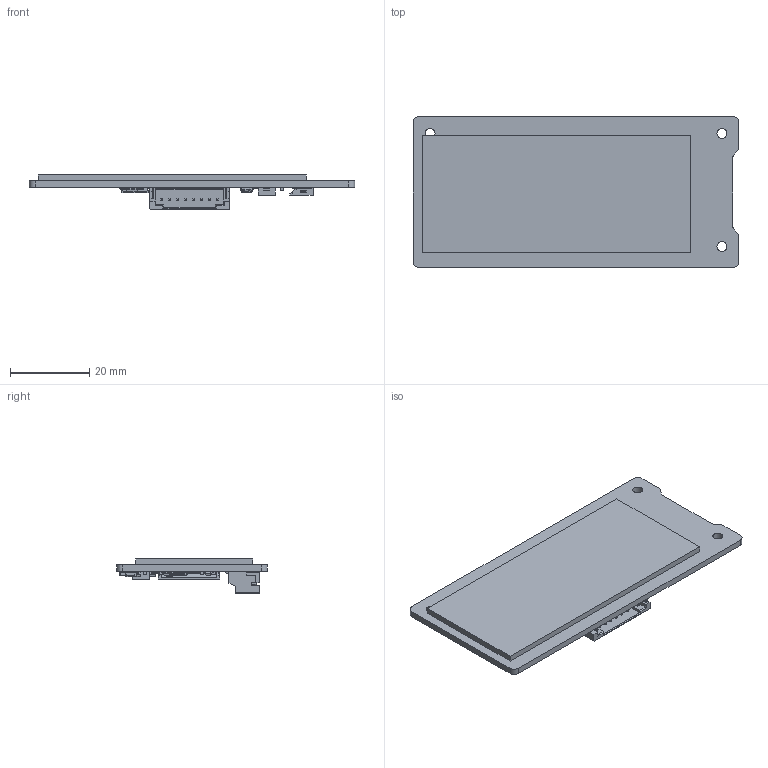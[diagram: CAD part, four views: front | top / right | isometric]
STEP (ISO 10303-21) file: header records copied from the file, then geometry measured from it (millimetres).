
FILE_DESCRIPTION(/* description */ (''),/* implementation_level */ '2;1');
FILE_NAME(/* name */ '2.9inch E-Paper Display RBYW V1.0_step.prt.stp',/* time_stamp */ '2025-08-19T10:01:01+08:00',/* author */ (''),/* organization */ (''),/* preprocessor_version */ 'ST-DEVELOPER v16.7',/* originating_system */ 'SIEMENS PLM Software NX 12.0',/* authorisation */ '');
FILE_SCHEMA (('AUTOMOTIVE_DESIGN { 1 0 10303 214 3 1 1 1 }'));
Products named in the file (56): 3_1_2_3_4_5_600; 2_1_2_3_4_5_600; 1_1_2_3_4_5_6_A; PH2_0_SMD-W__1_2_30004; C_060336650; LOGO_; SOD123; XEL4020; User_Library-R0603-2; Slide-SW_SPDT; SOT23-5-2; txs0108epwr; FPC-SMD_24P-P0.50-L6.1-W16.4; sc70-3; Aban; APINGMU; C_0603; C1; C2; C3; C4; C5; C6; C7; C8; C9; C10; C11; C12; C13; C14; C15; C16; D1; D2; D3; L1; PH2_0_SMD-W-8P-8268_AF0_ASM; PH2_0_SMD-W-8P-13506_AF0_ASM; PH2.0_SMD-W-8P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
Assembly tree (84 placements, depth 8):
  2.9inch  E-Paper Display RBYW V1.0_step
    Board
      Aban
    Q1
      sc70-3
    J1
      FPC-SMD_24P-P0.50-L6.1-W16.4
    U2
      txs0108epwr
    C17
      C_0603
        LOGO_
        C_060336650
    U1
      SOT23-5-2
    SW1
      Slide-SW_SPDT
    R6
      User_Library-R0603-2
    R5
      User_Library-R0603-2
    R4
      User_Library-R0603-2
    R3
      User_Library-R0603-2
    R1
      User_Library-R0603-2
    P1
      PH2_0-8PWB
        Designator10
          PH2.0_SMD-W-8P
            PH2_0_SMD-W-8P-13506_AF0_ASM
              PH2_0_SMD-W-8P-8268_AF0_ASM
                1_1_2_3_4_5_6_A
                2_1_2_3_4_5_600
                3_1_2_3_4_5_600
              PH2_0_SMD-W__1_2_30004  x8
    L1
      XEL4020
    D3
      SOD123
    D2
      SOD123
    D1
      SOD123
    C16
      C_0603
        LOGO_
        C_060336650
    C15
      C_0603
        LOGO_
        C_060336650
    C14
      C_0603
        LOGO_
        C_060336650
    C13
      C_0603
        LOGO_
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Bounding box: 82 x 38 x 8.6 mm (x, y, z)
Volume: 8416.5 mm3; surface area: 12818.4 mm2
Topology: 322 solids, 322 shells, 6561 faces, 16548 edges, 10715 vertices
Faces by surface type: plane 3327, bspline 1584, cylinder 1362, sphere 178, torus 110
Full cylindrical faces by diameter (mm): 2.5 x4
Entity records: 89095 total; most frequent: CARTESIAN_POINT 23662, ORIENTED_EDGE 12674, DIRECTION 10965, EDGE_CURVE 6337, LINE 4781, VECTOR 4781, VERTEX_POINT 4159, AXIS2_PLACEMENT_3D 3092
